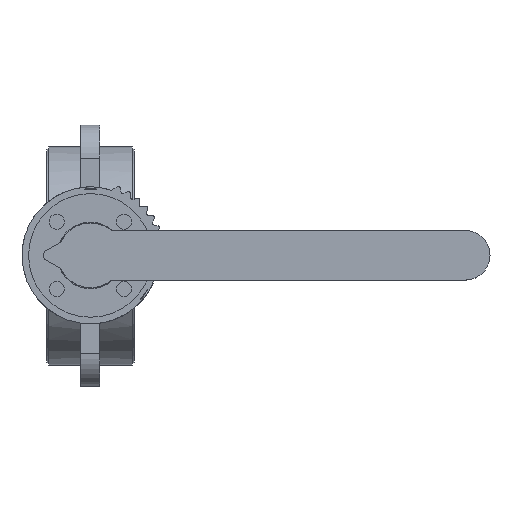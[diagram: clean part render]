
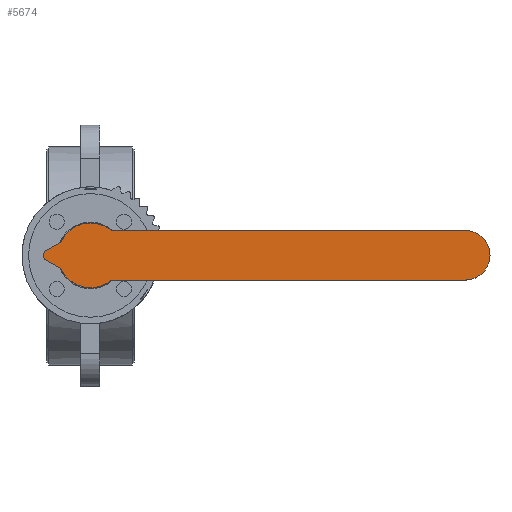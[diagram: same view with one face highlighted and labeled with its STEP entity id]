
A CAD part, top view. The second image highlights one B-rep face of the part: STEP entity #5674.
In plain terms, the highlighted planar face has unit normal (0, 0, 1).
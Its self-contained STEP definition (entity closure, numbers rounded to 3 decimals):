
#5674=ADVANCED_FACE('',(#11073),#11075,.T.);
#11073=FACE_BOUND('',#11074,.T.);
#11074=EDGE_LOOP('',(#15403,#15404,#15405,#15406,#15407,#15408,#15409,#15410,#15411,
#15412,#15413));
#11075=PLANE('',#11076);
#11076=AXIS2_PLACEMENT_3D('',#11077,#11078,#11079);
#11077=CARTESIAN_POINT('',(-1.545,-4.755,210.));
#11078=DIRECTION('',(0.,0.,1.));
#11079=DIRECTION('',(0.951,-0.309,0.));
#15403=ORIENTED_EDGE('',*,*,#17803,.T.);
#15404=ORIENTED_EDGE('',*,*,#17820,.T.);
#15405=ORIENTED_EDGE('',*,*,#17818,.T.);
#15406=ORIENTED_EDGE('',*,*,#17821,.T.);
#15407=ORIENTED_EDGE('',*,*,#17822,.T.);
#15408=ORIENTED_EDGE('',*,*,#17823,.T.);
#15409=ORIENTED_EDGE('',*,*,#17824,.T.);
#15410=ORIENTED_EDGE('',*,*,#17825,.T.);
#15411=ORIENTED_EDGE('',*,*,#17826,.T.);
#15412=ORIENTED_EDGE('',*,*,#17827,.T.);
#15413=ORIENTED_EDGE('',*,*,#17828,.T.);
#17803=EDGE_CURVE('',#21091,#21119,#21121,.T.);
#17818=EDGE_CURVE('',#21151,#21149,#21152,.T.);
#17820=EDGE_CURVE('',#21119,#21151,#21154,.T.);
#17821=EDGE_CURVE('',#21149,#21155,#21156,.T.);
#17822=EDGE_CURVE('',#21155,#21157,#21158,.T.);
#17823=EDGE_CURVE('',#21157,#21159,#21160,.T.);
#17824=EDGE_CURVE('',#21159,#21161,#21162,.T.);
#17825=EDGE_CURVE('',#21161,#21163,#21164,.T.);
#17826=EDGE_CURVE('',#21163,#21165,#21166,.T.);
#17827=EDGE_CURVE('',#21165,#21167,#21168,.T.);
#17828=EDGE_CURVE('',#21167,#21091,#21169,.T.);
#21091=VERTEX_POINT('',#29775);
#21119=VERTEX_POINT('',#29831);
#21121=LINE('',#29835,#29836);
#21149=VERTEX_POINT('',#29891);
#21151=VERTEX_POINT('',#29895);
#21152=LINE('',#29896,#29897);
#21154=CIRCLE('',#29902,13.);
#21155=VERTEX_POINT('',#29906);
#21156=CIRCLE('',#29907,17.);
#21157=VERTEX_POINT('',#29911);
#21158=CIRCLE('',#29912,17.);
#21159=VERTEX_POINT('',#29916);
#21160=CIRCLE('',#29917,3.);
#21161=VERTEX_POINT('',#29921);
#21162=LINE('',#29922,#29923);
#21163=VERTEX_POINT('',#29925);
#21164=CIRCLE('',#29926,3.);
#21165=VERTEX_POINT('',#29930);
#21166=LINE('',#29931,#29932);
#21167=VERTEX_POINT('',#29934);
#21168=CIRCLE('',#29935,3.);
#21169=CIRCLE('',#29939,17.);
#29775=CARTESIAN_POINT('',(10.954,-13.,210.));
#29831=CARTESIAN_POINT('',(197.,-13.,210.));
#29835=CARTESIAN_POINT('',(10.954,-13.,210.));
#29836=VECTOR('',#29837,1.);
#29837=DIRECTION('',(1.,0.,0.));
#29891=CARTESIAN_POINT('',(10.954,13.,210.));
#29895=CARTESIAN_POINT('',(197.,13.,210.));
#29896=CARTESIAN_POINT('',(197.,13.,210.));
#29897=VECTOR('',#29898,1.);
#29898=DIRECTION('',(-1.,0.,0.));
#29902=AXIS2_PLACEMENT_3D('',#29903,#29904,#29905);
#29903=CARTESIAN_POINT('',(197.,0.,210.));
#29904=DIRECTION('',(0.,0.,1.));
#29905=DIRECTION('',(0.,-1.,0.));
#29906=CARTESIAN_POINT('',(2.659,16.791,210.));
#29907=AXIS2_PLACEMENT_3D('',#29908,#29909,#29910);
#29908=CARTESIAN_POINT('',(0.,0.,210.));
#29909=DIRECTION('',(0.,0.,1.));
#29910=DIRECTION('',(0.644,0.765,0.));
#29911=CARTESIAN_POINT('',(-15.113,7.785,210.));
#29912=AXIS2_PLACEMENT_3D('',#29913,#29914,#29915);
#29913=CARTESIAN_POINT('',(0.,0.,210.));
#29914=DIRECTION('',(0.,0.,1.));
#29915=DIRECTION('',(0.156,0.988,0.));
#29916=CARTESIAN_POINT('',(-16.317,6.539,210.));
#29917=AXIS2_PLACEMENT_3D('',#29918,#29919,#29920);
#29918=CARTESIAN_POINT('',(-17.78,9.159,210.));
#29919=DIRECTION('',(0.,0.,-1.));
#29920=DIRECTION('',(0.889,-0.458,0.));
#29921=CARTESIAN_POINT('',(-23.338,2.619,210.));
#29922=CARTESIAN_POINT('',(-16.317,6.539,210.));
#29923=VECTOR('',#29924,1.);
#29924=DIRECTION('',(-0.873,-0.487,0.));
#29925=CARTESIAN_POINT('',(-23.338,-2.619,210.));
#29926=AXIS2_PLACEMENT_3D('',#29927,#29928,#29929);
#29927=CARTESIAN_POINT('',(-21.876,0.,210.));
#29928=DIRECTION('',(0.,0.,1.));
#29929=DIRECTION('',(-0.487,0.873,0.));
#29930=CARTESIAN_POINT('',(-16.317,-6.539,210.));
#29931=CARTESIAN_POINT('',(-23.338,-2.619,210.));
#29932=VECTOR('',#29933,1.);
#29933=DIRECTION('',(0.873,-0.487,0.));
#29934=CARTESIAN_POINT('',(-15.113,-7.785,210.));
#29935=AXIS2_PLACEMENT_3D('',#29936,#29937,#29938);
#29936=CARTESIAN_POINT('',(-17.78,-9.159,210.));
#29937=DIRECTION('',(0.,0.,-1.));
#29938=DIRECTION('',(0.487,0.873,0.));
#29939=AXIS2_PLACEMENT_3D('',#29940,#29941,#29942);
#29940=CARTESIAN_POINT('',(0.,0.,210.));
#29941=DIRECTION('',(0.,0.,1.));
#29942=DIRECTION('',(-0.889,-0.458,0.));
